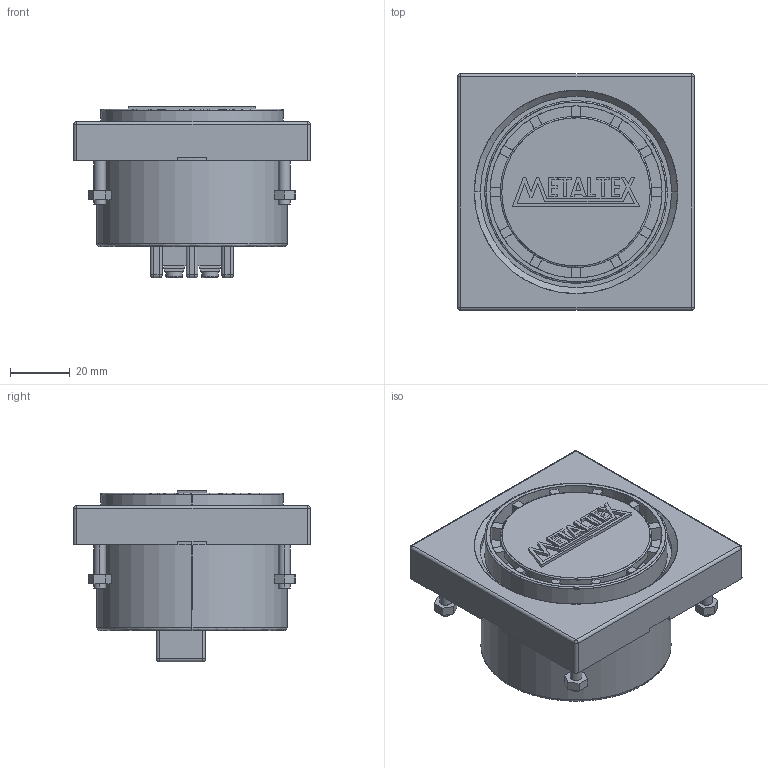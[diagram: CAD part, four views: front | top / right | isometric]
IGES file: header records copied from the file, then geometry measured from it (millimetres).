
Start section: SolidWorks IGES file using analytic representation for surfaces
Global section: file name: D:\X - Arquivos\PROEX\Empresas\P11 - METALTEX\01 - Produtos\IGES\6ª remessa\1ª etapa\TB6-24.IGS; native system: SolidWorks 2012; preprocessor: SolidWorks 2012; author: Usuario; date: 190125.145238; units: millimetre
Bounding box: 79.5 x 79.5 x 57.7 mm (x, y, z)
Surface area: 36491.8 mm2 (no closed solid volume)
Topology: 0 solids, 0 shells, 418 faces, 3698 edges, 3682 vertices
Faces by surface type: bspline 310, revolution 108
